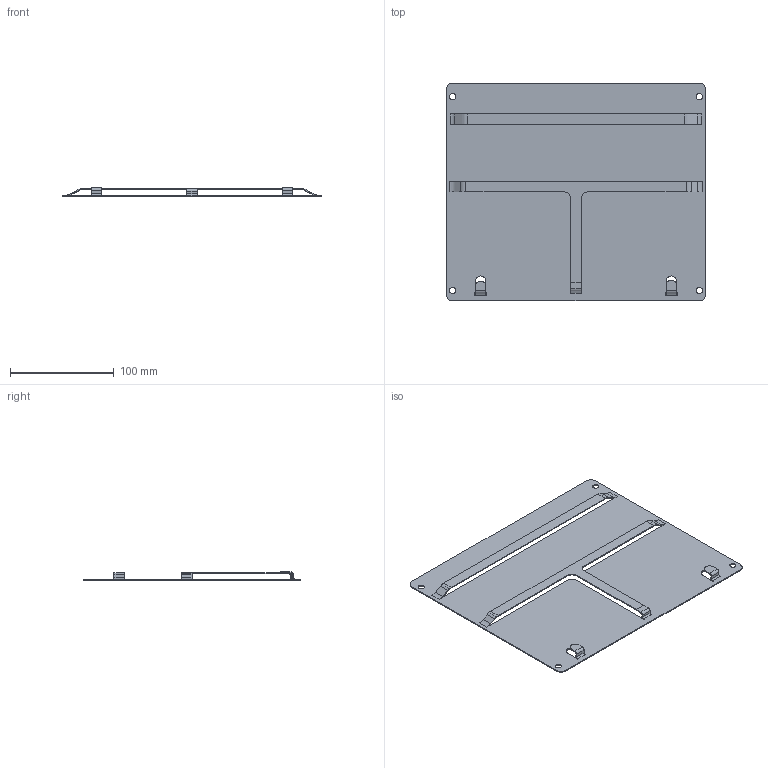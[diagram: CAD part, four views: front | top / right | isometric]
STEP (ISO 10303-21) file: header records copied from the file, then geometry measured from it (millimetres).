
FILE_DESCRIPTION (( 'STEP AP203' ), '1' );
FILE_NAME ('PORTA_DOCUMENTI.STEP', '2019-02-20T19:30:03', ( '' ), ( '' ), 'SwSTEP 2.0', 'SolidWorks 2019', '' );
FILE_SCHEMA (( 'CONFIG_CONTROL_DESIGN' ));
Length unit declared in the file: millimetre
Products named in the file (1): PORTA_DOCUMENTI
Bounding box: 250 x 210 x 8 mm (x, y, z)
Volume: 52503.2 mm3; surface area: 108410.6 mm2
Topology: 1 solids, 1 shells, 144 faces, 380 edges, 236 vertices
Faces by surface type: plane 102, cylinder 38, bspline 4
Entity records: 4581 total; most frequent: CARTESIAN_POINT 917, ORIENTED_EDGE 760, DIRECTION 722, EDGE_CURVE 380, LINE 288, VECTOR 288, VERTEX_POINT 236, AXIS2_PLACEMENT_3D 217
